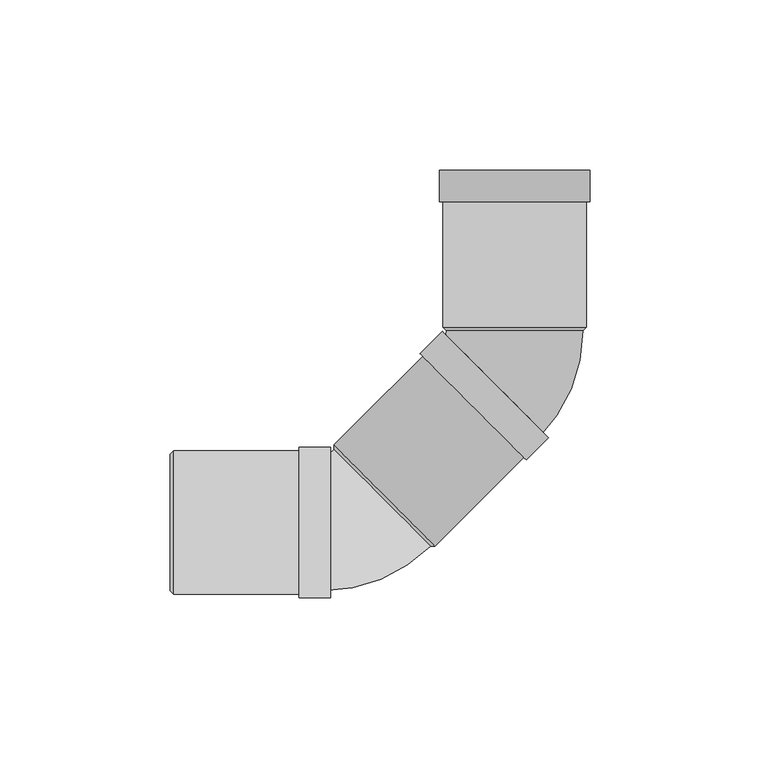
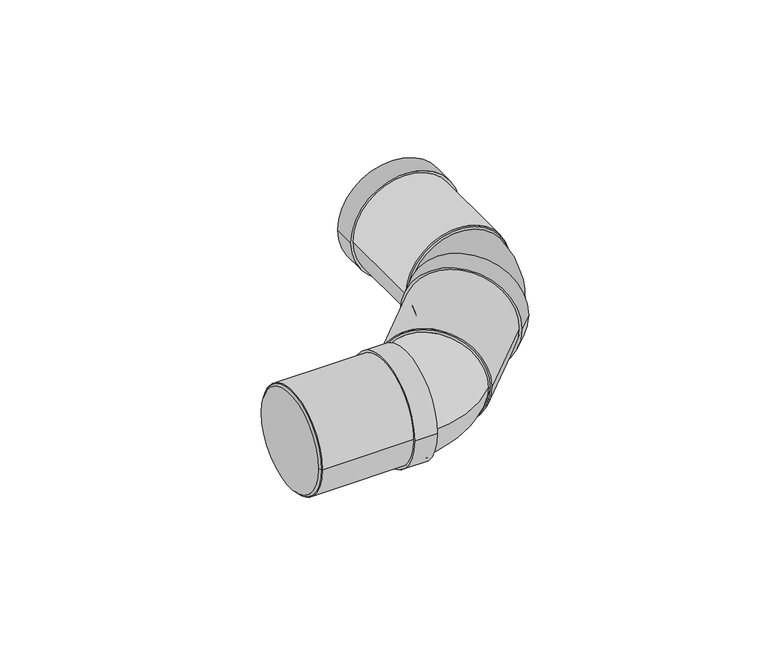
"""IFC4 building model written with IfcOpenShell, lengths in millimetres: pipe fitting geometry, Superdrain HT Bend Composite 2x45 : Superdrain HT Bend Composite 2x45."""

from ifc_helpers import new_model, si_unit, point, frame, origin, origin_2d, place, context, project, spatial, polyline, circle_curve, ellipse_curve, trimmed, segment, composite_curve, outline, extrude, source, transform, mapped, element, save
from ifc_brep_helpers import plane_surface, revolved_surface, advanced_brep


def pipe_fitting_d37d2d62(model_context):
    return source(origin(), model_context, "Body", "SolidModel", [
        advanced_brep(
        [(20.0, 56.3033621, 0.0), (-20.0, 56.3033621, 0.0), (6.9296465, 24.7487373, 0.0), (-21.3546248, 53.0330086, 0.0)],
        [
            (0, 1, circle_curve(frame((0.0, 56.3033621, 0.0), z_axis=(0.0, 1.0, 0.0), x_axis=(-1.0, 0.0, 0.0)), 20.0)),
            (1, 0, circle_curve(frame((0.0, 56.3033621, 0.0), z_axis=(0.0, 1.0, 0.0), x_axis=(-1.0, 0.0, 0.0)), 20.0)),
            (2, 3, circle_curve(frame((-7.2124892, 38.890873, 0.0), z_axis=(-0.7071067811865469, -0.7071067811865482, 0.0), x_axis=(-0.7071067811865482, 0.7071067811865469, 0.0)), 20.0)),
            (3, 2, circle_curve(frame((-7.2124892, 38.890873, 0.0), z_axis=(-0.7071067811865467, -0.7071067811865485, 0.0), x_axis=(-0.7071067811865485, 0.7071067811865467, 0.0)), 20.0)),
            (3, 1, circle_curve(frame((-24.6249783, 56.3033621, 0.0), z_axis=(0.0, 0.0, 1.0), x_axis=(0.707106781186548, 0.7071067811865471, 0.0)), 4.6249783)),
            (0, 2, circle_curve(frame((-24.6249783, 56.3033621, 0.0), z_axis=(0.0, 0.0, -1.0), x_axis=(0.707106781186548, 0.7071067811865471, 0.0)), 44.6249783)),
        ],
        [
            plane_surface(frame((0.0, 56.3033621, 0.0), z_axis=(0.0, 1.0, 0.0), x_axis=(0.0, 0.0, -1.0))),
            plane_surface(frame((-7.2124892, 38.890873, 0.0), z_axis=(-0.7071067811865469, -0.7071067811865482, 0.0), x_axis=(0.0, 0.0, -1.0))),
            revolved_surface(trimmed(ellipse_curve(frame((-7.2124892, 73.7158513, 0.0), z_axis=(0.7071067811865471, -0.707106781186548, 0.0), x_axis=(-0.707106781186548, -0.7071067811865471, 0.0)), 20.0, 20.0), [point((-21.3546248, 59.5737157, 0.0))], [point((6.9296465, 87.8579869, 0.0))], True, "CARTESIAN"), (-24.6249783, 56.3033621, 0.0), (0.0, 0.0, 1.0)),
            revolved_surface(trimmed(ellipse_curve(frame((-7.2124892, 73.7158513, 0.0), z_axis=(0.7071067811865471, -0.707106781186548, 0.0), x_axis=(-0.707106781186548, -0.7071067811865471, 0.0)), 20.0, 20.0), [point((6.9296465, 87.8579869, 0.0))], [point((-21.3546248, 59.5737157, 0.0))], True, "CARTESIAN"), (-24.6249783, 56.3033621, 0.0), (0.0, 0.0, 1.0)),
        ],
        [
            (0, [[1, 2]]),
            (1, [[3, 4]]),
            (2, [[-4, 5, -1, 6]]),
            (3, [[-3, -6, -2, -5]]),
        ],
    ),
        extrude(outline(composite_curve([segment(trimmed(circle_curve(origin_2d(), 21.0), [point((0.0, 21.0))], [point((0.0, -21.0))], False, "CARTESIAN"), True, "CONTINUOUS"), segment(trimmed(circle_curve(origin_2d(), 21.0), [point((0.0, -21.0))], [point((0.0, 21.0))], False, "CARTESIAN"), True, "CONTINUOUS")], self_intersect=False), holes=[composite_curve([segment(trimmed(circle_curve(origin_2d(), 20.0), [point((0.0, 20.0))], [point((0.0, -20.0))], True, "CARTESIAN"), True, "CONTINUOUS"), segment(trimmed(circle_curve(origin_2d(), 20.0), [point((0.0, -20.0))], [point((0.0, 20.0))], True, "CARTESIAN"), True, "CONTINUOUS")], self_intersect=False)]), frame((0.0, 57.3033621, 0.0), z_axis=(0.0, 1.0, 0.0), x_axis=(0.0, 0.0, 1.0)), (0.0, 0.0, 1.0), 46.0),
        extrude(outline(composite_curve([segment(trimmed(circle_curve(origin_2d(), 22.05), [point((0.0, -22.05))], [point((0.0, 22.05))], False, "CARTESIAN"), True, "CONTINUOUS"), segment(trimmed(circle_curve(origin_2d(), 22.05), [point((0.0, 22.05))], [point((0.0, -22.05))], False, "CARTESIAN"), True, "CONTINUOUS")], self_intersect=False), holes=[composite_curve([segment(trimmed(circle_curve(origin_2d(), 20.0), [point((0.0, -20.0))], [point((0.0, 20.0))], True, "CARTESIAN"), True, "CONTINUOUS"), segment(trimmed(circle_curve(origin_2d(), 20.0), [point((0.0, 20.0))], [point((0.0, -20.0))], True, "CARTESIAN"), True, "CONTINUOUS")], self_intersect=False)]), frame((0.0, 94.1033621, 0.0), z_axis=(0.0, 1.0, 0.0), x_axis=(0.0, 0.0, 1.0)), (0.0, 0.0, 1.0), 9.2),
        advanced_brep(
        [(21.0, 57.3033621, 0.0), (-21.0, 57.3033621, 0.0), (20.0, 56.3033621, 0.0), (-20.0, 56.3033621, 0.0)],
        [
            (0, 1, circle_curve(frame((0.0, 57.3033621, 0.0), z_axis=(0.0, 1.0, 0.0), x_axis=(1.0, 0.0, 0.0)), 21.0)),
            (1, 0, circle_curve(frame((0.0, 57.3033621, 0.0), z_axis=(0.0, 1.0, 0.0), x_axis=(-1.0, 0.0, 0.0)), 21.0)),
            (2, 3, circle_curve(frame((0.0, 56.3033621, 0.0), z_axis=(0.0, -1.0, 0.0), x_axis=(-1.0, 0.0, 0.0)), 20.0)),
            (3, 2, circle_curve(frame((0.0, 56.3033621, 0.0), z_axis=(0.0, -1.0, 0.0), x_axis=(1.0, 0.0, 0.0)), 20.0)),
            (3, 1),
            (0, 2),
        ],
        [
            plane_surface(frame((0.0, 57.3033621, 0.0), z_axis=(0.0, 1.0, 0.0), x_axis=(0.0, 0.0, -1.0))),
            plane_surface(frame((0.0, 56.3033621, 0.0), z_axis=(0.0, -1.0, 0.0), x_axis=(0.0, 0.0, -1.0))),
            revolved_surface(polyline([(-20.0, 56.3033621, 0.0), (-21.0, 57.3033621, 0.0)]), (0.0, 36.3033621, 0.0), (0.0, 1.0, 0.0)),
            revolved_surface(polyline([(20.0, 56.3033621, 0.0), (21.0, 57.3033621, 0.0)]), (0.0, 36.3033621, 0.0), (0.0, 1.0, 0.0)),
        ],
        [
            (0, [[1, 2]]),
            (1, [[3, 4]]),
            (2, [[-4, 5, -1, 6]]),
            (3, [[-3, -6, -2, -5]]),
        ],
    ),
        extrude(outline(composite_curve([segment(trimmed(circle_curve(origin_2d(), 20.0), [point((0.0, -20.0))], [point((0.0, 20.0))], False, "CARTESIAN"), True, "CONTINUOUS"), segment(trimmed(circle_curve(origin_2d(), 20.0), [point((0.0, 20.0))], [point((0.0, -20.0))], False, "CARTESIAN"), True, "CONTINUOUS")], self_intersect=False)), frame((-38.1837662, 7.9195959, 0.0), z_axis=(0.707106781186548, 0.7071067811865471, 0.0), x_axis=(0.0, 0.0, -1.0)), (0.0, 0.0, 1.0), 43.8),
        extrude(outline(composite_curve([segment(trimmed(circle_curve(origin_2d(), 21.0), [point((21.0, 0.0))], [point((-21.0, 0.0))], False, "CARTESIAN"), True, "CONTINUOUS"), segment(trimmed(circle_curve(origin_2d(), 21.0), [point((-21.0, 0.0))], [point((21.0, 0.0))], False, "CARTESIAN"), True, "CONTINUOUS")], self_intersect=False), holes=[composite_curve([segment(trimmed(circle_curve(origin_2d(), 20.0), [point((20.0, 0.0))], [point((-20.0, 0.0))], True, "CARTESIAN"), True, "CONTINUOUS"), segment(trimmed(circle_curve(origin_2d(), 20.0), [point((-20.0, 0.0))], [point((20.0, 0.0))], True, "CARTESIAN"), True, "CONTINUOUS")], self_intersect=False)]), frame((-100.1033621, 0.0, 0.0), z_axis=(1.0, 0.0, 0.0), x_axis=(0.0, 1.0, 0.0)), (0.0, 0.0, 1.0), 46.0),
        extrude(outline(composite_curve([segment(trimmed(circle_curve(origin_2d(), 22.05), [point((22.05, 0.0))], [point((-22.05, 0.0))], False, "CARTESIAN"), True, "CONTINUOUS"), segment(trimmed(circle_curve(origin_2d(), 22.05), [point((-22.05, 0.0))], [point((22.05, 0.0))], False, "CARTESIAN"), True, "CONTINUOUS")], self_intersect=False), holes=[composite_curve([segment(trimmed(circle_curve(origin_2d(), 20.0), [point((20.0, 0.0))], [point((-20.0, 0.0))], True, "CARTESIAN"), True, "CONTINUOUS"), segment(trimmed(circle_curve(origin_2d(), 20.0), [point((-20.0, 0.0))], [point((20.0, 0.0))], True, "CARTESIAN"), True, "CONTINUOUS")], self_intersect=False)]), frame((-63.3033621, 0.0, 0.0), z_axis=(1.0, 0.0, 0.0), x_axis=(0.0, 1.0, 0.0)), (0.0, 0.0, 1.0), 9.2),
        advanced_brep(
        [(-101.1033621, 20.0, 0.0), (-101.1033621, -20.0, 0.0), (-100.1033621, 21.0, 0.0), (-100.1033621, -21.0, 0.0)],
        [
            (0, 1, circle_curve(frame((-101.1033621, 0.0, 0.0), z_axis=(-1.0, 0.0, 0.0), x_axis=(0.0, 1.0, 0.0)), 20.0)),
            (1, 0, circle_curve(frame((-101.1033621, 0.0, 0.0), z_axis=(-1.0, 0.0, 0.0), x_axis=(0.0, -1.0, 0.0)), 20.0)),
            (2, 3, circle_curve(frame((-100.1033621, 0.0, 0.0), z_axis=(1.0, 0.0, 0.0), x_axis=(0.0, -1.0, 0.0)), 21.0)),
            (3, 2, circle_curve(frame((-100.1033621, 0.0, 0.0), z_axis=(1.0, 0.0, 0.0), x_axis=(0.0, 1.0, 0.0)), 21.0)),
            (3, 1),
            (0, 2),
        ],
        [
            plane_surface(frame((-101.1033621, 0.0, 0.0), z_axis=(-1.0, 0.0, 0.0), x_axis=(0.0, 0.0, -1.0))),
            plane_surface(frame((-100.1033621, 0.0, 0.0), z_axis=(1.0, 0.0, 0.0), x_axis=(0.0, 0.0, -1.0))),
            revolved_surface(polyline([(-101.1033621, 20.0, 0.0), (-100.1033621, 21.0, 0.0)]), (-121.1033621, 0.0, 0.0), (1.0, 0.0, 0.0)),
            revolved_surface(polyline([(-101.1033621, -20.0, 0.0), (-100.1033621, -21.0, 0.0)]), (-121.1033621, 0.0, 0.0), (1.0, 0.0, 0.0)),
        ],
        [
            (0, [[1, 2]]),
            (1, [[3, 4]]),
            (2, [[-4, 5, -1, 6]]),
            (3, [[-3, -6, -2, -5]]),
        ],
    ),
        advanced_brep(
        [(-24.7487373, -6.9296465, 0.0), (-53.0330086, 21.3546248, 0.0), (-56.3033621, -20.0, 0.0), (-56.3033621, 20.0, 0.0)],
        [
            (0, 1, circle_curve(frame((-38.890873, 7.2124892, 0.0), z_axis=(0.7071067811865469, 0.7071067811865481, 0.0), x_axis=(-0.7071067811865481, 0.7071067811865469, 0.0)), 20.0)),
            (1, 0, circle_curve(frame((-38.890873, 7.2124892, 0.0), z_axis=(0.7071067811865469, 0.7071067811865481, 0.0), x_axis=(-0.7071067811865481, 0.7071067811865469, 0.0)), 20.0)),
            (2, 3, circle_curve(frame((-56.3033621, 0.0, 0.0), z_axis=(-1.0, 0.0, 0.0), x_axis=(0.0, 1.0, 0.0)), 20.0)),
            (3, 2, circle_curve(frame((-56.3033621, 0.0, 0.0), z_axis=(-1.0, 0.0, 0.0), x_axis=(0.0, 1.0, 0.0)), 20.0)),
            (3, 1, circle_curve(frame((-56.3033621, 24.6249783, 0.0), z_axis=(0.0, 0.0, 1.0), x_axis=(1.0, 0.0, 0.0)), 4.6249783)),
            (0, 2, circle_curve(frame((-56.3033621, 24.6249783, 0.0), z_axis=(0.0, 0.0, -1.0), x_axis=(1.0, 0.0, 0.0)), 44.6249783)),
        ],
        [
            plane_surface(frame((-38.890873, 7.2124892, 0.0), z_axis=(0.707106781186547, 0.7071067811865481, 0.0), x_axis=(0.0, 0.0, -1.0))),
            plane_surface(frame((-56.3033621, 0.0, 0.0), z_axis=(-1.0, 0.0, 0.0), x_axis=(0.0, 0.0, -1.0))),
            revolved_surface(trimmed(ellipse_curve(frame((-31.6783838, 24.6249783, 0.0), z_axis=(0.0, -1.0, 0.0), x_axis=(-1.0, 0.0, 0.0)), 20.0, 20.0), [point((-51.6783838, 24.6249783, 0.0))], [point((-11.6783838, 24.6249783, 0.0))], True, "CARTESIAN"), (-56.3033621, 24.6249783, 0.0), (0.0, 0.0, 1.0)),
            revolved_surface(trimmed(ellipse_curve(frame((-31.6783838, 24.6249783, 0.0), z_axis=(0.0, -1.0, 0.0), x_axis=(-1.0, 0.0, 0.0)), 20.0, 20.0), [point((-11.6783838, 24.6249783, 0.0))], [point((-51.6783838, 24.6249783, 0.0))], True, "CARTESIAN"), (-56.3033621, 24.6249783, 0.0), (0.0, 0.0, 1.0)),
        ],
        [
            (0, [[1, 2]]),
            (1, [[3, 4]]),
            (2, [[-4, 5, -1, 6]]),
            (3, [[-3, -6, -2, -5]]),
        ],
    ),
        extrude(outline(composite_curve([segment(trimmed(circle_curve(origin_2d(), 21.0), [point((0.0, 21.0))], [point((0.0, -21.0000001))], False, "CARTESIAN"), True, "CONTINUOUS"), segment(trimmed(circle_curve(origin_2d(), 21.0), [point((0.0, -21.0000001))], [point((0.0, 21.0))], False, "CARTESIAN"), True, "CONTINUOUS")], self_intersect=False), holes=[composite_curve([segment(trimmed(circle_curve(origin_2d(), 20.0), [point((0.0, 20.0))], [point((0.0, -20.0))], True, "CARTESIAN"), True, "CONTINUOUS"), segment(trimmed(circle_curve(origin_2d(), 20.0), [point((0.0, -20.0))], [point((0.0, 20.0))], True, "CARTESIAN"), True, "CONTINUOUS")], self_intersect=False)]), frame((-38.1837662, 7.9195959, 0.0), z_axis=(0.7071067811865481, 0.707106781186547, 0.0), x_axis=(0.0, 0.0, 1.0)), (0.0, 0.0, 1.0), 46.0),
        extrude(outline(composite_curve([segment(trimmed(circle_curve(origin_2d(), 22.05), [point((0.0, -22.05))], [point((0.0, 22.05))], False, "CARTESIAN"), True, "CONTINUOUS"), segment(trimmed(circle_curve(origin_2d(), 22.05), [point((0.0, 22.05))], [point((0.0, -22.05))], False, "CARTESIAN"), True, "CONTINUOUS")], self_intersect=False), holes=[composite_curve([segment(trimmed(circle_curve(origin_2d(), 20.0), [point((0.0, -20.0))], [point((0.0, 20.0))], True, "CARTESIAN"), True, "CONTINUOUS"), segment(trimmed(circle_curve(origin_2d(), 20.0), [point((0.0, 20.0))], [point((0.0, -20.0))], True, "CARTESIAN"), True, "CONTINUOUS")], self_intersect=False)]), frame((-12.1622366, 33.9411255, 0.0), z_axis=(0.707106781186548, 0.707106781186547, 0.0), x_axis=(0.0, 0.0, 1.0)), (0.0, 0.0, 1.0), 9.2),
        advanced_brep(
        [(-23.3345238, -6.9296465, 0.0), (-53.0330086, 22.7688384, 0.0), (-24.7487373, -6.9296465, 0.0), (-53.0330086, 21.3546248, 0.0)],
        [
            (0, 1, circle_curve(frame((-38.1837662, 7.9195959, 0.0), z_axis=(0.7071067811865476, 0.7071067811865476, 0.0), x_axis=(0.7071067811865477, -0.7071067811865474, 0.0)), 21.0)),
            (1, 0, circle_curve(frame((-38.1837662, 7.9195959, 0.0), z_axis=(0.7071067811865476, 0.7071067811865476, 0.0), x_axis=(-0.7071067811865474, 0.7071067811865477, 0.0)), 21.0)),
            (2, 3, circle_curve(frame((-38.890873, 7.2124892, 0.0), z_axis=(-0.7071067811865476, -0.7071067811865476, 0.0), x_axis=(-0.7071067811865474, 0.7071067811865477, 0.0)), 20.0)),
            (3, 2, circle_curve(frame((-38.890873, 7.2124892, 0.0), z_axis=(-0.7071067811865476, -0.7071067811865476, 0.0), x_axis=(0.7071067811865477, -0.7071067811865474, 0.0)), 20.0)),
            (3, 1),
            (0, 2),
        ],
        [
            plane_surface(frame((-38.1837662, 7.9195959, 0.0), z_axis=(0.707106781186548, 0.707106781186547, 0.0), x_axis=(0.0, 0.0, -1.0))),
            plane_surface(frame((-38.890873, 7.2124892, 0.0), z_axis=(-0.707106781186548, -0.707106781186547, 0.0), x_axis=(0.0, 0.0, -1.0))),
            revolved_surface(polyline([(-53.0330086, 21.354624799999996, 0.0), (-53.0330086, 22.7688384, 0.0)]), (-53.0330086, -6.9296465, 0.0), (0.7071067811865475, 0.7071067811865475, 0.0)),
            revolved_surface(polyline([(-24.748737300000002, -6.9296465, 0.0), (-23.334523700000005, -6.9296465, 0.0)]), (-53.0330086, -6.9296465, 0.0), (0.7071067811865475, 0.7071067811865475, 0.0)),
        ],
        [
            (0, [[1, 2]]),
            (1, [[3, 4]]),
            (2, [[-4, 5, -1, 6]]),
            (3, [[-3, -6, -2, -5]]),
        ],
    ),
        extrude(outline(composite_curve([segment(trimmed(circle_curve(origin_2d(), 20.0), [point((-20.0, 0.0))], [point((20.0, 0.0))], False, "CARTESIAN"), True, "CONTINUOUS"), segment(trimmed(circle_curve(origin_2d(), 20.0), [point((20.0, 0.0))], [point((-20.0, 0.0))], False, "CARTESIAN"), True, "CONTINUOUS")], self_intersect=False)), frame((-100.1033621, 0.0, 0.0), z_axis=(1.0, 0.0, 0.0), x_axis=(0.0, 1.0, 0.0)), (0.0, 0.0, 1.0), 43.8),
    ])


if __name__ == "__main__":
    model = new_model("IFC4")
    model_context = context("Model", 3, world=origin())
    ifc_project = project(units=[si_unit("LENGTHUNIT", "METRE", prefix="MILLI")], contexts=[model_context])
    site = spatial("IfcSite", under=ifc_project)
    building = spatial("IfcBuilding", under=site)
    placement = place(None, origin())
    pipe_fitting_shape = pipe_fitting_d37d2d62(model_context)
    element("IfcPipeFitting", 1, ObjectType="Superdrain HT Bend Composite 2x45 : Superdrain HT Bend Composite 2x45", at=placement, inside=building, context=model_context, shape_type="MappedRepresentation", body=[
        mapped(pipe_fitting_shape, transform((0.0, 0.0, 0.0), x_axis=(1.0, 0.0, 0.0), y_axis=(0.0, 1.0, 0.0), z_axis=(0.0, 0.0, 1.0))),
    ])
    save(model, "model.ifc")
